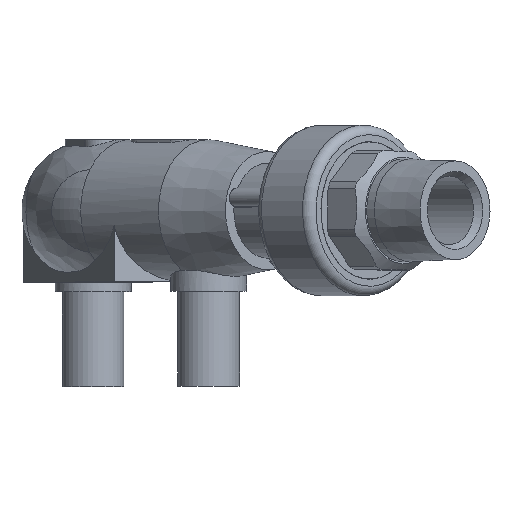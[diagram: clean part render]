
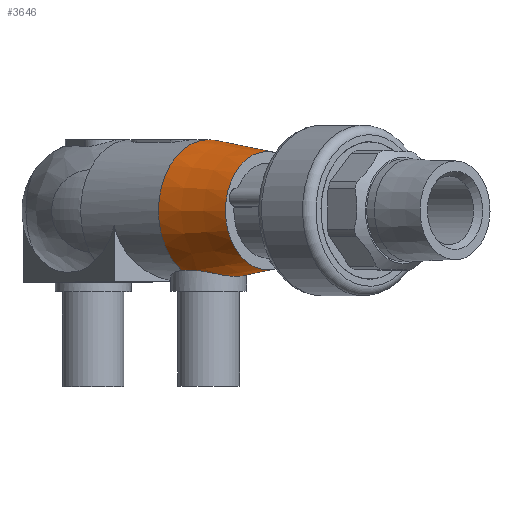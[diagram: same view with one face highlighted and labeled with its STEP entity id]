
A CAD part, top view. The second image highlights one B-rep face of the part: STEP entity #3646.
In plain terms, the highlighted conical face has half-angle 8.13 degrees and reference radius 15 mm.
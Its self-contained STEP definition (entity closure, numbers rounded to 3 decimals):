
#41=CONICAL_SURFACE('',#4463,15.,0.142);
#618=CIRCLE('',#4414,15.);
#625=CIRCLE('',#4436,12.5);
#1055=ORIENTED_EDGE('',*,*,#2038,.F.);
#1056=ORIENTED_EDGE('',*,*,#1990,.F.);
#1057=ORIENTED_EDGE('',*,*,#2041,.T.);
#1990=EDGE_CURVE('',#2518,#2519,#618,.T.);
#2038=EDGE_CURVE('',#2519,#2518,#2904,.T.);
#2041=EDGE_CURVE('',#2559,#2559,#625,.T.);
#2518=VERTEX_POINT('',#6591);
#2519=VERTEX_POINT('',#6593);
#2559=VERTEX_POINT('',#7076);
#2904=B_SPLINE_CURVE_WITH_KNOTS('',3,(#7059,#7060,#7061,#7062,#7063,#7064,
#7065,#7066,#7067,#7068,#7069),.UNSPECIFIED.,.F.,.F.,(4,1,1,1,1,1,1,1,4),
(0.007,0.01,0.014,0.017,
0.02,0.023,0.026,0.029,
0.032),.UNSPECIFIED.);
#2995=EDGE_LOOP('',(#1055,#1056));
#2996=EDGE_LOOP('',(#1057));
#3320=FACE_BOUND('',#2995,.T.);
#3321=FACE_BOUND('',#2996,.T.);
#3646=ADVANCED_FACE('',(#3320,#3321),#41,.T.);
#4414=AXIS2_PLACEMENT_3D('',#6592,#4874,#4875);
#4436=AXIS2_PLACEMENT_3D('',#7075,#4930,#4931);
#4463=AXIS2_PLACEMENT_3D('',#7187,#4984,#4985);
#4874=DIRECTION('',(-0.707,0.,-0.707));
#4875=DIRECTION('',(-0.707,0.,0.707));
#4930=DIRECTION('',(-0.707,0.,-0.707));
#4931=DIRECTION('',(-0.707,0.,0.707));
#4984=DIRECTION('',(-0.707,0.,-0.707));
#4985=DIRECTION('',(-0.707,0.,0.707));
#6591=CARTESIAN_POINT('',(18.738,-12.689,30.052));
#6592=CARTESIAN_POINT('',(24.395,0.,24.395));
#6593=CARTESIAN_POINT('',(30.052,-12.689,18.738));
#7059=CARTESIAN_POINT('',(30.052,-12.689,18.738));
#7060=CARTESIAN_POINT('',(30.786,-12.513,19.472));
#7061=CARTESIAN_POINT('',(31.994,-12.434,21.277));
#7062=CARTESIAN_POINT('',(32.598,-13.004,24.421));
#7063=CARTESIAN_POINT('',(31.984,-13.664,27.517));
#7064=CARTESIAN_POINT('',(30.203,-13.954,30.203));
#7065=CARTESIAN_POINT('',(27.512,-13.664,31.988));
#7066=CARTESIAN_POINT('',(24.404,-13.001,32.598));
#7067=CARTESIAN_POINT('',(21.276,-12.435,31.992));
#7068=CARTESIAN_POINT('',(19.474,-12.513,30.787));
#7069=CARTESIAN_POINT('',(18.738,-12.689,30.052));
#7075=CARTESIAN_POINT('',(36.77,0.,36.77));
#7076=CARTESIAN_POINT('',(27.931,0.,45.608));
#7187=CARTESIAN_POINT('',(24.395,0.,24.395));
